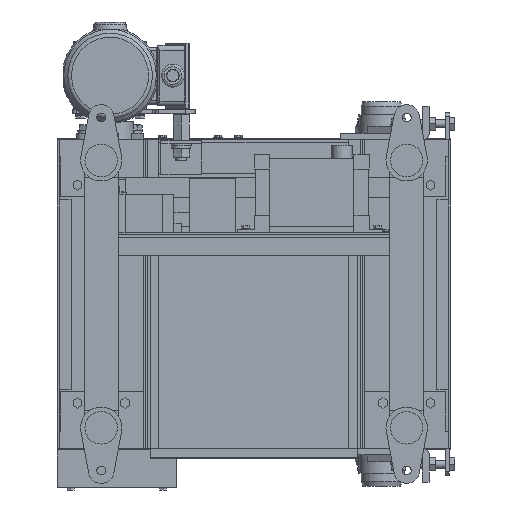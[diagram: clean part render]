
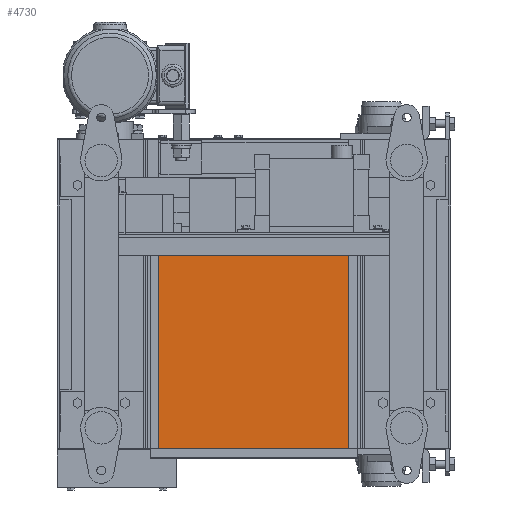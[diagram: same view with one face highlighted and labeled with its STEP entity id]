
A CAD part, front view. The second image highlights one B-rep face of the part: STEP entity #4730.
In plain terms, the highlighted planar face has unit normal (0, -1, 0).
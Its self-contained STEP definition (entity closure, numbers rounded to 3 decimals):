
#4730=ADVANCED_FACE('',(#24263),#24262,.F.);
#24262=PLANE('',#39579);
#24263=FACE_OUTER_BOUND('',#39580,.T.);
#39576=CARTESIAN_POINT('',(452.5,-165.,171.));
#39577=DIRECTION('',(0.,1.,0.));
#39578=DIRECTION('',(0.,0.,-1.));
#39579=AXIS2_PLACEMENT_3D('',#39576,#39577,#39578);
#39580=EDGE_LOOP('',(#52102,#52103,#52104,#52105));
#52102=ORIENTED_EDGE('',*,*,#59593,.F.);
#52103=ORIENTED_EDGE('',*,*,#59599,.F.);
#52104=ORIENTED_EDGE('',*,*,#59600,.F.);
#52105=ORIENTED_EDGE('',*,*,#59601,.F.);
#59593=EDGE_CURVE('',#92656,#92657,#92658,.T.);
#59599=EDGE_CURVE('',#92695,#92656,#92696,.T.);
#59600=EDGE_CURVE('',#92702,#92695,#92703,.T.);
#59601=EDGE_CURVE('',#92657,#92702,#92709,.T.);
#92656=VERTEX_POINT('',#120972);
#92657=VERTEX_POINT('',#120973);
#92658=LINE('',#120974,#120975);
#92695=VERTEX_POINT('',#120993);
#92696=LINE('',#120994,#120995);
#92702=VERTEX_POINT('',#120997);
#92703=LINE('',#120998,#120999);
#92709=LINE('',#121001,#121002);
#120972=CARTESIAN_POINT('',(442.5,-165.,161.));
#120973=CARTESIAN_POINT('',(442.5,-165.,-228.2));
#120974=CARTESIAN_POINT('',(442.5,-165.,161.));
#120975=VECTOR('',#120976,389.2);
#120976=DIRECTION('',(0.,0.,-1.));
#120993=CARTESIAN_POINT('',(137.5,-165.,161.));
#120994=CARTESIAN_POINT('',(137.5,-165.,161.));
#120995=VECTOR('',#120996,305.);
#120996=DIRECTION('',(1.,0.,0.));
#120997=CARTESIAN_POINT('',(137.5,-165.,-228.2));
#120998=CARTESIAN_POINT('',(137.5,-165.,-228.2));
#120999=VECTOR('',#121000,389.2);
#121000=DIRECTION('',(0.,0.,1.));
#121001=CARTESIAN_POINT('',(442.5,-165.,-228.2));
#121002=VECTOR('',#121003,305.);
#121003=DIRECTION('',(-1.,0.,0.));
